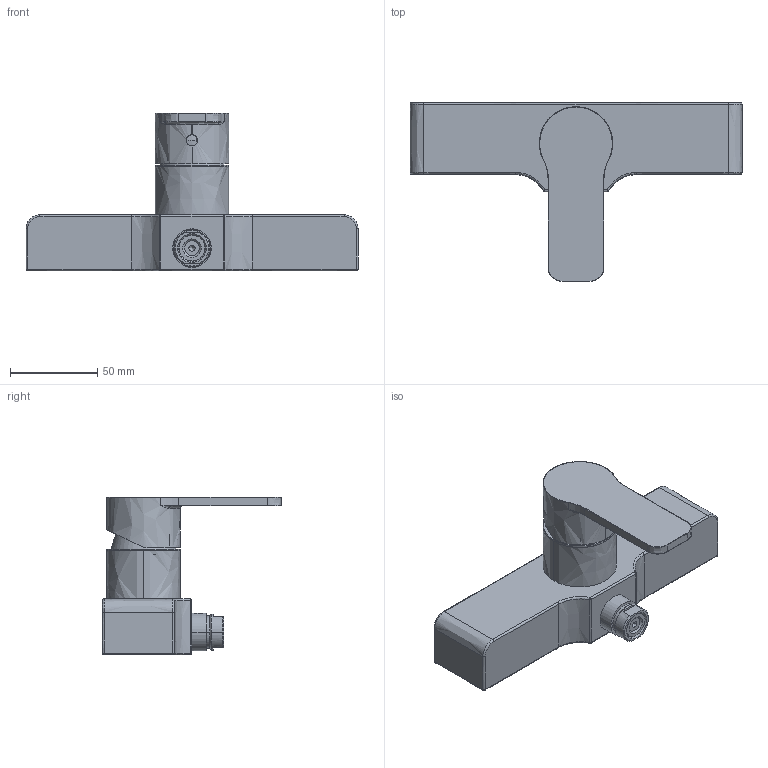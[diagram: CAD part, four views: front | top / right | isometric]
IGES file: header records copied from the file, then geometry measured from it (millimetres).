
Start section:  PTC IGES file: prt0004.igs
Global section: file name: prt0004.igs; native system: Pro/ENGINEER by Parametric Technology Corporation; preprocessor: 2010040; author: atrabaldo; organization: Unknown; date: 20140313.100633; units: millimetre
Bounding box: 190 x 102.5 x 90.2 mm (x, y, z)
Surface area: 104348.5 mm2 (no closed solid volume)
Topology: 0 solids, 0 shells, 681 faces, 3451 edges, 3453 vertices
Faces by surface type: bspline 681
